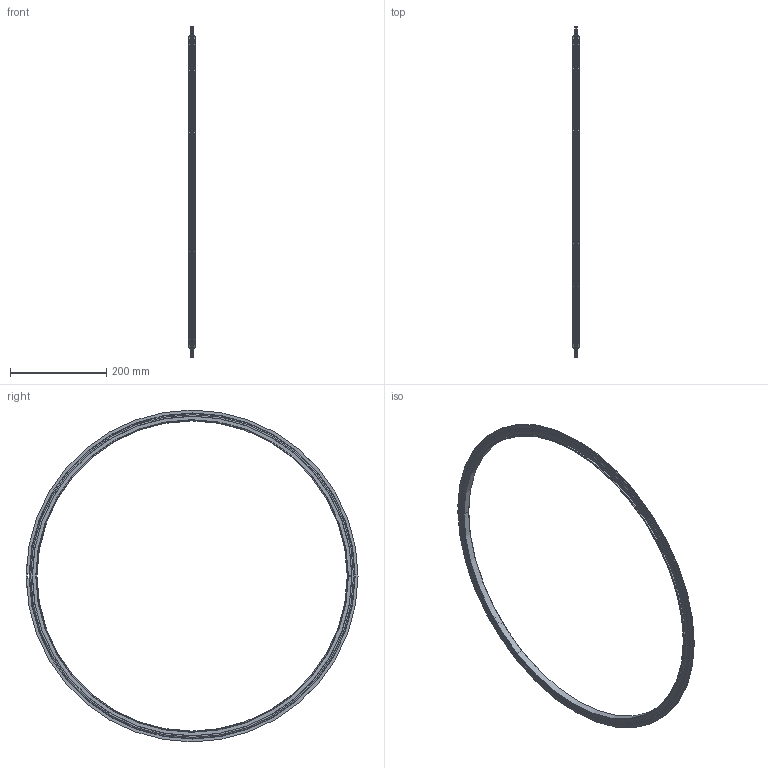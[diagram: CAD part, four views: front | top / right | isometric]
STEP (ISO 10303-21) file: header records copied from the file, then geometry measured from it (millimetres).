
FILE_DESCRIPTION((''),'2;1');
FILE_NAME('W:\212-259.stp','2004-01-09T10:18:31',('KAA'),(''),'Autodesk Inventor (R) 6.0','Autodesk Inventor (R) 6.0','');
FILE_SCHEMA(('CONFIG_CONTROL_DESIGN'));
Length unit declared in the file: millimetre
Products named in the file (1): 212-259
Bounding box: 14 x 691.4 x 691 mm (x, y, z)
Volume: 286548.4 mm3; surface area: 162670.6 mm2
Topology: 2 solids, 2 shells, 66 faces, 189 edges, 127 vertices
Faces by surface type: cylinder 28, plane 18, torus 12, bspline 4, cone 4
Entity records: 2684 total; most frequent: CARTESIAN_POINT 731, DIRECTION 427, ORIENTED_EDGE 394, EDGE_CURVE 197, AXIS2_PLACEMENT_3D 179, VERTEX_POINT 127, CIRCLE 116, VECTOR 69
